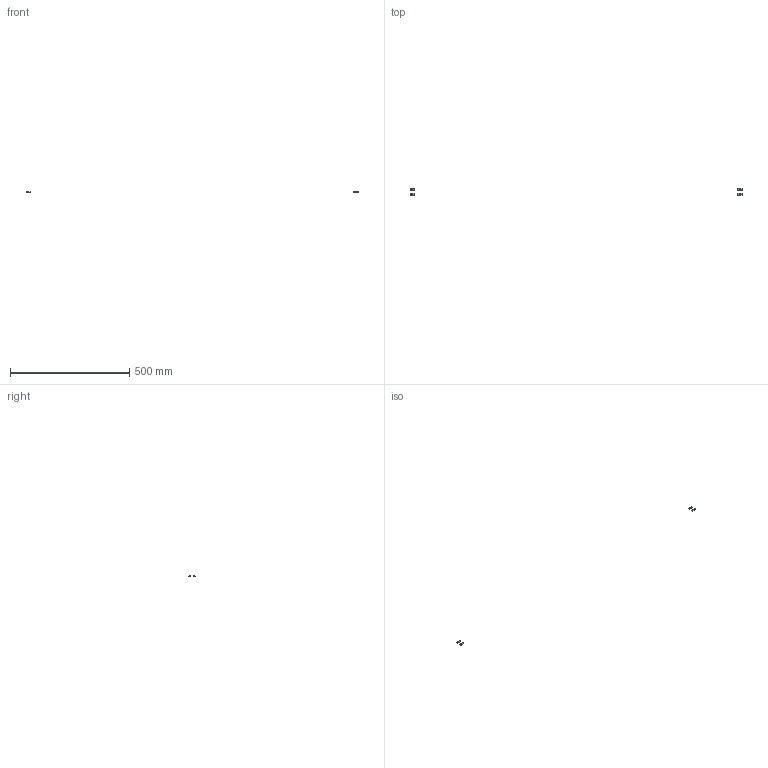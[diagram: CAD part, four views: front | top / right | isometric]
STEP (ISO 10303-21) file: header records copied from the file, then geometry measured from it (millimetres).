
FILE_DESCRIPTION(/* description */ (''),/* implementation_level */ '2;1');
FILE_NAME(/* name */ 'Y-533C~1',/* time_stamp */ '2014-02-14T19:37:42+01:00',/* author */ (''),/* organization */ (''),/* preprocessor_version */ 'ST-DEVELOPER v14',/* originating_system */ '',/* authorisation */ '');
FILE_SCHEMA (('AUTOMOTIVE_DESIGN'));
Length unit declared in the file: millimetre
Products named in the file (2): Document; nut tslot, post, M5
Assembly tree (2 placements, depth 2):
  Document
    nut tslot, post, M5  x2
Bounding box: 1390 x 28.3 x 3.8 mm (x, y, z)
Volume: 1260.1 mm3; surface area: 1678.2 mm2
Topology: 4 solids, 4 shells, 52 faces, 144 edges, 96 vertices
Faces by surface type: plane 44, bspline 8
Entity records: 2913 total; most frequent: CARTESIAN_POINT 1373, B_SPLINE_CURVE_WITH_KNOTS 300, ORIENTED_EDGE 216, PCURVE 216, DEFINITIONAL_REPRESENTATION 216, SURFACE_CURVE 108, EDGE_CURVE 108, VERTEX_POINT 72
